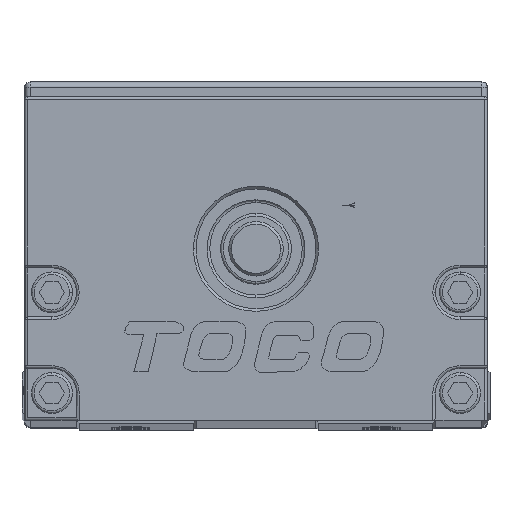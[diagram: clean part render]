
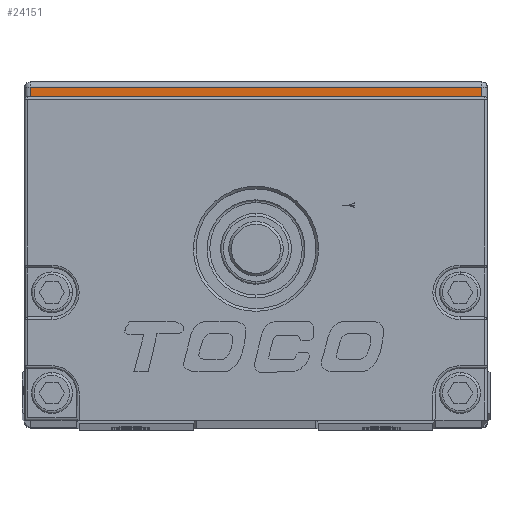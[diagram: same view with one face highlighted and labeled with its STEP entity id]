
A CAD part, top view. The second image highlights one B-rep face of the part: STEP entity #24151.
In plain terms, the highlighted planar face has unit normal (0, 0, 1).
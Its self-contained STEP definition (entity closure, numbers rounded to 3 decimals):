
#717 = EDGE_CURVE ( 'NONE', #44691, #43037, #31793, .T. ) ;
#791 = CARTESIAN_POINT ( 'NONE',  ( -41.5, 64., -13. ) ) ;
#2899 = DIRECTION ( 'NONE',  ( 1., 0., 0. ) ) ;
#3370 = LINE ( 'NONE', #4815, #44566 ) ;
#3637 = VERTEX_POINT ( 'NONE', #20186 ) ;
#4642 = DIRECTION ( 'NONE',  ( 0., 0., -1. ) ) ;
#4815 = CARTESIAN_POINT ( 'NONE',  ( 41.5, 64., -13. ) ) ;
#5939 = VECTOR ( 'NONE', #2899, 1000. ) ;
#6518 = ORIENTED_EDGE ( 'NONE', *, *, #39304, .F. ) ;
#7540 = CARTESIAN_POINT ( 'NONE',  ( -41.5, 63., -13. ) ) ;
#8438 = DIRECTION ( 'NONE',  ( 1., 0., 0. ) ) ;
#8459 = VECTOR ( 'NONE', #38574, 1000. ) ;
#12120 = CARTESIAN_POINT ( 'NONE',  ( -43., 60., -13. ) ) ;
#17749 = CARTESIAN_POINT ( 'NONE',  ( 41.5, 60., -13. ) ) ;
#18931 = DIRECTION ( 'NONE',  ( 0., -1., 0. ) ) ;
#20186 = CARTESIAN_POINT ( 'NONE',  ( 41.5, 63., -13. ) ) ;
#24151 = ADVANCED_FACE ( 'NONE', ( #36929 ), #46198, .F. ) ;
#25873 = VECTOR ( 'NONE', #8438, 1000. ) ;
#26227 = LINE ( 'NONE', #45028, #5939 ) ;
#27070 = VERTEX_POINT ( 'NONE', #7540 ) ;
#27998 = CARTESIAN_POINT ( 'NONE',  ( -43., 64., -13. ) ) ;
#31793 = LINE ( 'NONE', #12120, #25873 ) ;
#32049 = ORIENTED_EDGE ( 'NONE', *, *, #48180, .F. ) ;
#34527 = LINE ( 'NONE', #791, #8459 ) ;
#36929 = FACE_OUTER_BOUND ( 'NONE', #59995, .T. ) ;
#38574 = DIRECTION ( 'NONE',  ( 0., 1., 0. ) ) ;
#39304 = EDGE_CURVE ( 'NONE', #3637, #43037, #3370, .T. ) ;
#41379 = ORIENTED_EDGE ( 'NONE', *, *, #50851, .F. ) ;
#43037 = VERTEX_POINT ( 'NONE', #17749 ) ;
#44566 = VECTOR ( 'NONE', #18931, 1000. ) ;
#44691 = VERTEX_POINT ( 'NONE', #60614 ) ;
#45028 = CARTESIAN_POINT ( 'NONE',  ( -43., 63., -13. ) ) ;
#46198 = PLANE ( 'NONE',  #48074 ) ;
#48074 = AXIS2_PLACEMENT_3D ( 'NONE', #27998, #4642, #51056 ) ;
#48180 = EDGE_CURVE ( 'NONE', #44691, #27070, #34527, .T. ) ;
#49623 = ORIENTED_EDGE ( 'NONE', *, *, #717, .T. ) ;
#50851 = EDGE_CURVE ( 'NONE', #27070, #3637, #26227, .T. ) ;
#51056 = DIRECTION ( 'NONE',  ( 0., -1., 0. ) ) ;
#59995 = EDGE_LOOP ( 'NONE', ( #41379, #32049, #49623, #6518 ) ) ;
#60614 = CARTESIAN_POINT ( 'NONE',  ( -41.5, 60., -13. ) ) ;
